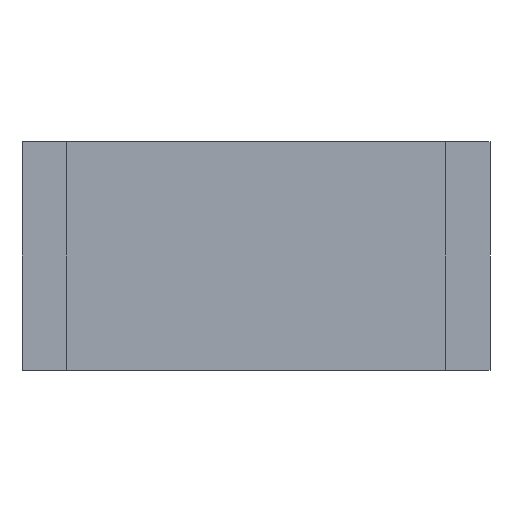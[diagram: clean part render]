
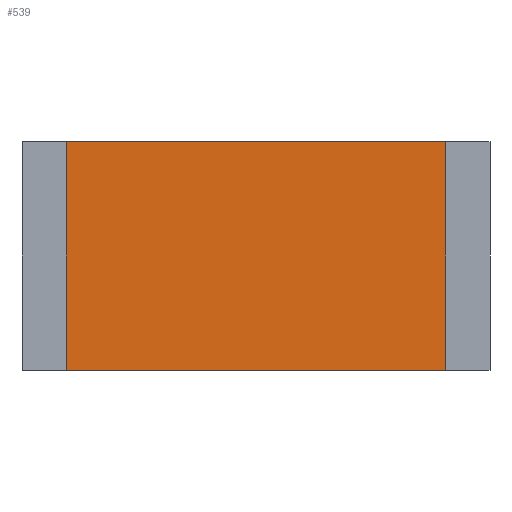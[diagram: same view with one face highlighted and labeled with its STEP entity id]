
A CAD part, front view. The second image highlights one B-rep face of the part: STEP entity #539.
In plain terms, the highlighted planar face has unit normal (0, -1, 0).
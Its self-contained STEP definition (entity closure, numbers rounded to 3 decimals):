
#32 = PLANE('',#33);
#33 = AXIS2_PLACEMENT_3D('',#34,#35,#36);
#34 = CARTESIAN_POINT('',(0.,0.275,-1.55));
#35 = DIRECTION('',(0.,0.,-1.));
#36 = DIRECTION('',(0.,1.,0.));
#136 = VERTEX_POINT('',#137);
#137 = CARTESIAN_POINT('',(2.575,0.15,-1.55));
#158 = EDGE_CURVE('',#136,#159,#161,.T.);
#159 = VERTEX_POINT('',#160);
#160 = CARTESIAN_POINT('',(-2.575,0.15,-1.55));
#161 = SURFACE_CURVE('',#162,(#166,#173),.PCURVE_S1.);
#162 = LINE('',#163,#164);
#163 = CARTESIAN_POINT('',(3.025,0.15,-1.55));
#164 = VECTOR('',#165,1.);
#165 = DIRECTION('',(-1.,0.,0.));
#166 = PCURVE('',#32,#167);
#167 = DEFINITIONAL_REPRESENTATION('',(#168),#172);
#168 = LINE('',#169,#170);
#169 = CARTESIAN_POINT('',(-0.125,3.025));
#170 = VECTOR('',#171,1.);
#171 = DIRECTION('',(0.,-1.));
#172 = ( GEOMETRIC_REPRESENTATION_CONTEXT(2) 
PARAMETRIC_REPRESENTATION_CONTEXT() REPRESENTATION_CONTEXT('2D SPACE',''
  ) );
#173 = PCURVE('',#174,#179);
#174 = PLANE('',#175);
#175 = AXIS2_PLACEMENT_3D('',#176,#177,#178);
#176 = CARTESIAN_POINT('',(3.025,0.15,-1.55));
#177 = DIRECTION('',(0.,-1.,0.));
#178 = DIRECTION('',(-1.,0.,0.));
#179 = DEFINITIONAL_REPRESENTATION('',(#180),#184);
#180 = LINE('',#181,#182);
#181 = CARTESIAN_POINT('',(0.,-0.));
#182 = VECTOR('',#183,1.);
#183 = DIRECTION('',(1.,0.));
#184 = ( GEOMETRIC_REPRESENTATION_CONTEXT(2) 
PARAMETRIC_REPRESENTATION_CONTEXT() REPRESENTATION_CONTEXT('2D SPACE',''
  ) );
#333 = PLANE('',#334);
#334 = AXIS2_PLACEMENT_3D('',#335,#336,#337);
#335 = CARTESIAN_POINT('',(-2.575,0.,-1.55));
#336 = DIRECTION('',(-1.,0.,0.));
#337 = DIRECTION('',(0.,1.,0.));
#524 = PLANE('',#525);
#525 = AXIS2_PLACEMENT_3D('',#526,#527,#528);
#526 = CARTESIAN_POINT('',(2.575,0.,-1.55));
#527 = DIRECTION('',(-1.,0.,0.));
#528 = DIRECTION('',(0.,1.,0.));
#539 = ADVANCED_FACE('',(#540),#174,.T.);
#540 = FACE_BOUND('',#541,.T.);
#541 = EDGE_LOOP('',(#542,#543,#566,#594));
#542 = ORIENTED_EDGE('',*,*,#158,.F.);
#543 = ORIENTED_EDGE('',*,*,#544,.T.);
#544 = EDGE_CURVE('',#136,#545,#547,.T.);
#545 = VERTEX_POINT('',#546);
#546 = CARTESIAN_POINT('',(2.575,0.15,1.55));
#547 = SURFACE_CURVE('',#548,(#552,#559),.PCURVE_S1.);
#548 = LINE('',#549,#550);
#549 = CARTESIAN_POINT('',(2.575,0.15,-1.55));
#550 = VECTOR('',#551,1.);
#551 = DIRECTION('',(0.,0.,1.));
#552 = PCURVE('',#174,#553);
#553 = DEFINITIONAL_REPRESENTATION('',(#554),#558);
#554 = LINE('',#555,#556);
#555 = CARTESIAN_POINT('',(0.45,0.));
#556 = VECTOR('',#557,1.);
#557 = DIRECTION('',(0.,-1.));
#558 = ( GEOMETRIC_REPRESENTATION_CONTEXT(2) 
PARAMETRIC_REPRESENTATION_CONTEXT() REPRESENTATION_CONTEXT('2D SPACE',''
  ) );
#559 = PCURVE('',#524,#560);
#560 = DEFINITIONAL_REPRESENTATION('',(#561),#565);
#561 = LINE('',#562,#563);
#562 = CARTESIAN_POINT('',(0.15,0.));
#563 = VECTOR('',#564,1.);
#564 = DIRECTION('',(0.,-1.));
#565 = ( GEOMETRIC_REPRESENTATION_CONTEXT(2) 
PARAMETRIC_REPRESENTATION_CONTEXT() REPRESENTATION_CONTEXT('2D SPACE',''
  ) );
#566 = ORIENTED_EDGE('',*,*,#567,.T.);
#567 = EDGE_CURVE('',#545,#568,#570,.T.);
#568 = VERTEX_POINT('',#569);
#569 = CARTESIAN_POINT('',(-2.575,0.15,1.55));
#570 = SURFACE_CURVE('',#571,(#575,#582),.PCURVE_S1.);
#571 = LINE('',#572,#573);
#572 = CARTESIAN_POINT('',(3.025,0.15,1.55));
#573 = VECTOR('',#574,1.);
#574 = DIRECTION('',(-1.,0.,0.));
#575 = PCURVE('',#174,#576);
#576 = DEFINITIONAL_REPRESENTATION('',(#577),#581);
#577 = LINE('',#578,#579);
#578 = CARTESIAN_POINT('',(0.,-3.1));
#579 = VECTOR('',#580,1.);
#580 = DIRECTION('',(1.,0.));
#581 = ( GEOMETRIC_REPRESENTATION_CONTEXT(2) 
PARAMETRIC_REPRESENTATION_CONTEXT() REPRESENTATION_CONTEXT('2D SPACE',''
  ) );
#582 = PCURVE('',#583,#588);
#583 = PLANE('',#584);
#584 = AXIS2_PLACEMENT_3D('',#585,#586,#587);
#585 = CARTESIAN_POINT('',(0.,0.275,1.55));
#586 = DIRECTION('',(0.,0.,-1.));
#587 = DIRECTION('',(0.,1.,0.));
#588 = DEFINITIONAL_REPRESENTATION('',(#589),#593);
#589 = LINE('',#590,#591);
#590 = CARTESIAN_POINT('',(-0.125,3.025));
#591 = VECTOR('',#592,1.);
#592 = DIRECTION('',(0.,-1.));
#593 = ( GEOMETRIC_REPRESENTATION_CONTEXT(2) 
PARAMETRIC_REPRESENTATION_CONTEXT() REPRESENTATION_CONTEXT('2D SPACE',''
  ) );
#594 = ORIENTED_EDGE('',*,*,#595,.F.);
#595 = EDGE_CURVE('',#159,#568,#596,.T.);
#596 = SURFACE_CURVE('',#597,(#601,#608),.PCURVE_S1.);
#597 = LINE('',#598,#599);
#598 = CARTESIAN_POINT('',(-2.575,0.15,-1.55));
#599 = VECTOR('',#600,1.);
#600 = DIRECTION('',(0.,0.,1.));
#601 = PCURVE('',#174,#602);
#602 = DEFINITIONAL_REPRESENTATION('',(#603),#607);
#603 = LINE('',#604,#605);
#604 = CARTESIAN_POINT('',(5.6,0.));
#605 = VECTOR('',#606,1.);
#606 = DIRECTION('',(0.,-1.));
#607 = ( GEOMETRIC_REPRESENTATION_CONTEXT(2) 
PARAMETRIC_REPRESENTATION_CONTEXT() REPRESENTATION_CONTEXT('2D SPACE',''
  ) );
#608 = PCURVE('',#333,#609);
#609 = DEFINITIONAL_REPRESENTATION('',(#610),#614);
#610 = LINE('',#611,#612);
#611 = CARTESIAN_POINT('',(0.15,0.));
#612 = VECTOR('',#613,1.);
#613 = DIRECTION('',(0.,-1.));
#614 = ( GEOMETRIC_REPRESENTATION_CONTEXT(2) 
PARAMETRIC_REPRESENTATION_CONTEXT() REPRESENTATION_CONTEXT('2D SPACE',''
  ) );
